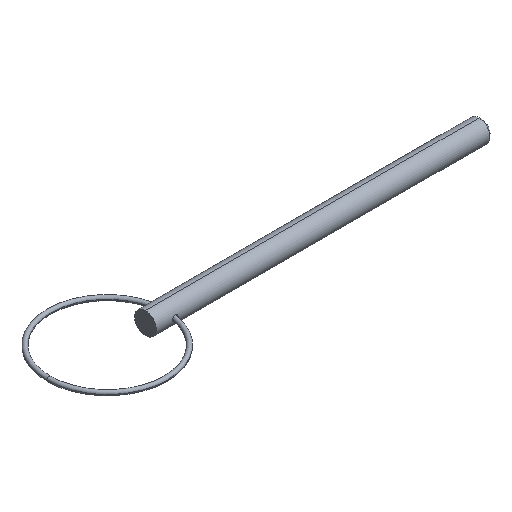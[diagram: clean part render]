
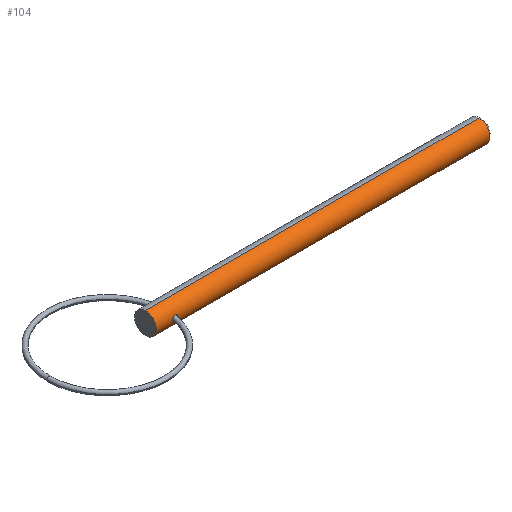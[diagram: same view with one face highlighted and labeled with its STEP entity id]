
A CAD part, isometric view. The second image highlights one B-rep face of the part: STEP entity #104.
In plain terms, the highlighted cylindrical face has radius 2.38 mm (diameter 4.76 mm), a partial arc.
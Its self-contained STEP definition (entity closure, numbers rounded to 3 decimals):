
#28 = CARTESIAN_POINT ( 'NONE',  ( 3.538, -2.38, 0.159 ) ) ;
#35 = ORIENTED_EDGE ( 'NONE', *, *, #137, .F. ) ;
#37 = DIRECTION ( 'NONE',  ( 1., 0., 0. ) ) ;
#42 = VERTEX_POINT ( 'NONE', #126 ) ;
#51 = DIRECTION ( 'NONE',  ( 0., 0., -1. ) ) ;
#52 = EDGE_LOOP ( 'NONE', ( #405, #175 ) ) ;
#62 = CARTESIAN_POINT ( 'NONE',  ( 4.307, -2.304, -0.597 ) ) ;
#64 = DIRECTION ( 'NONE',  ( 1., 0., 0. ) ) ;
#66 = VECTOR ( 'NONE', #37, 1000. ) ;
#73 = DIRECTION ( 'NONE',  ( 1., 0., 0. ) ) ;
#77 = EDGE_CURVE ( 'NONE', #519, #224, #143, .T. ) ;
#86 = LINE ( 'NONE', #210, #66 ) ;
#104 = ADVANCED_FACE ( 'NONE', ( #193, #493 ), #358, .T. ) ;
#105 = CARTESIAN_POINT ( 'NONE',  ( 4.307, -2.304, 0.597 ) ) ;
#112 = ORIENTED_EDGE ( 'NONE', *, *, #548, .F. ) ;
#115 = CARTESIAN_POINT ( 'NONE',  ( 4.75, -2.38, -0.157 ) ) ;
#118 = CARTESIAN_POINT ( 'NONE',  ( 4.75, -2.38, 0. ) ) ;
#126 = CARTESIAN_POINT ( 'NONE',  ( 0., 0., 2.38 ) ) ;
#130 = AXIS2_PLACEMENT_3D ( 'NONE', #185, #426, #267 ) ;
#137 = EDGE_CURVE ( 'NONE', #42, #390, #434, .T. ) ;
#143 = B_SPLINE_CURVE_WITH_KNOTS ( 'NONE', 3,
 ( #559, #115, #356, #616, #62, #196, #609, #368, #552, #437 ),
 .UNSPECIFIED., .F., .F.,
 ( 4, 2, 2, 2, 4 ),
 ( 0.002, 0.003, 0.003, 0.004, 0.004 ),
 .UNSPECIFIED. ) ;
#148 = CIRCLE ( 'NONE', #243, 2.38 ) ;
#175 = ORIENTED_EDGE ( 'NONE', *, *, #77, .T. ) ;
#181 = DIRECTION ( 'NONE',  ( 0., 0., -1. ) ) ;
#184 = CARTESIAN_POINT ( 'NONE',  ( 72.735, 0., -2.38 ) ) ;
#185 = CARTESIAN_POINT ( 'NONE',  ( 0., 0., 0. ) ) ;
#186 = B_SPLINE_CURVE_WITH_KNOTS ( 'NONE', 3,
 ( #657, #28, #598, #342, #409, #105, #776, #349, #528, #770 ),
 .UNSPECIFIED., .F., .F.,
 ( 4, 2, 2, 2, 4 ),
 ( 0., 0.001, 0.001, 0.002, 0.002 ),
 .UNSPECIFIED. ) ;
#193 = FACE_OUTER_BOUND ( 'NONE', #706, .T. ) ;
#196 = CARTESIAN_POINT ( 'NONE',  ( 3.992, -2.305, -0.592 ) ) ;
#210 = CARTESIAN_POINT ( 'NONE',  ( 0., 0., -2.38 ) ) ;
#224 = VERTEX_POINT ( 'NONE', #568 ) ;
#243 = AXIS2_PLACEMENT_3D ( 'NONE', #492, #73, #51 ) ;
#267 = DIRECTION ( 'NONE',  ( 0., 0., -1. ) ) ;
#300 = ORIENTED_EDGE ( 'NONE', *, *, #560, .T. ) ;
#322 = AXIS2_PLACEMENT_3D ( 'NONE', #511, #555, #181 ) ;
#342 = CARTESIAN_POINT ( 'NONE',  ( 3.836, -2.323, 0.528 ) ) ;
#349 = CARTESIAN_POINT ( 'NONE',  ( 4.687, -2.362, 0.314 ) ) ;
#356 = CARTESIAN_POINT ( 'NONE',  ( 4.687, -2.362, -0.314 ) ) ;
#358 = CYLINDRICAL_SURFACE ( 'NONE', #130, 2.38 ) ;
#368 = CARTESIAN_POINT ( 'NONE',  ( 3.61, -2.362, -0.312 ) ) ;
#390 = VERTEX_POINT ( 'NONE', #478 ) ;
#405 = ORIENTED_EDGE ( 'NONE', *, *, #450, .T. ) ;
#409 = CARTESIAN_POINT ( 'NONE',  ( 3.991, -2.305, 0.592 ) ) ;
#422 = CARTESIAN_POINT ( 'NONE',  ( 0., 0., -2.38 ) ) ;
#426 = DIRECTION ( 'NONE',  ( 1., 0., 0. ) ) ;
#434 = LINE ( 'NONE', #617, #589 ) ;
#437 = CARTESIAN_POINT ( 'NONE',  ( 3.538, -2.38, 0. ) ) ;
#450 = EDGE_CURVE ( 'NONE', #224, #519, #186, .T. ) ;
#478 = CARTESIAN_POINT ( 'NONE',  ( 72.735, 0., 2.38 ) ) ;
#492 = CARTESIAN_POINT ( 'NONE',  ( 0., 0., 0. ) ) ;
#493 = FACE_BOUND ( 'NONE', #52, .T. ) ;
#511 = CARTESIAN_POINT ( 'NONE',  ( 72.735, 0., 0. ) ) ;
#519 = VERTEX_POINT ( 'NONE', #118 ) ;
#528 = CARTESIAN_POINT ( 'NONE',  ( 4.75, -2.38, 0.157 ) ) ;
#548 = EDGE_CURVE ( 'NONE', #390, #716, #561, .T. ) ;
#552 = CARTESIAN_POINT ( 'NONE',  ( 3.538, -2.38, -0.159 ) ) ;
#555 = DIRECTION ( 'NONE',  ( 1., 0., 0. ) ) ;
#559 = CARTESIAN_POINT ( 'NONE',  ( 4.75, -2.38, 0. ) ) ;
#560 = EDGE_CURVE ( 'NONE', #42, #671, #148, .T. ) ;
#561 = CIRCLE ( 'NONE', #322, 2.38 ) ;
#568 = CARTESIAN_POINT ( 'NONE',  ( 3.538, -2.38, 0. ) ) ;
#589 = VECTOR ( 'NONE', #64, 1000. ) ;
#598 = CARTESIAN_POINT ( 'NONE',  ( 3.61, -2.362, 0.313 ) ) ;
#609 = CARTESIAN_POINT ( 'NONE',  ( 3.836, -2.323, -0.528 ) ) ;
#616 = CARTESIAN_POINT ( 'NONE',  ( 4.464, -2.322, -0.536 ) ) ;
#617 = CARTESIAN_POINT ( 'NONE',  ( 0., 0., 2.38 ) ) ;
#657 = CARTESIAN_POINT ( 'NONE',  ( 3.538, -2.38, 0. ) ) ;
#671 = VERTEX_POINT ( 'NONE', #422 ) ;
#701 = ORIENTED_EDGE ( 'NONE', *, *, #753, .T. ) ;
#706 = EDGE_LOOP ( 'NONE', ( #35, #300, #701, #112 ) ) ;
#716 = VERTEX_POINT ( 'NONE', #184 ) ;
#753 = EDGE_CURVE ( 'NONE', #671, #716, #86, .T. ) ;
#770 = CARTESIAN_POINT ( 'NONE',  ( 4.75, -2.38, 0. ) ) ;
#776 = CARTESIAN_POINT ( 'NONE',  ( 4.465, -2.322, 0.535 ) ) ;
